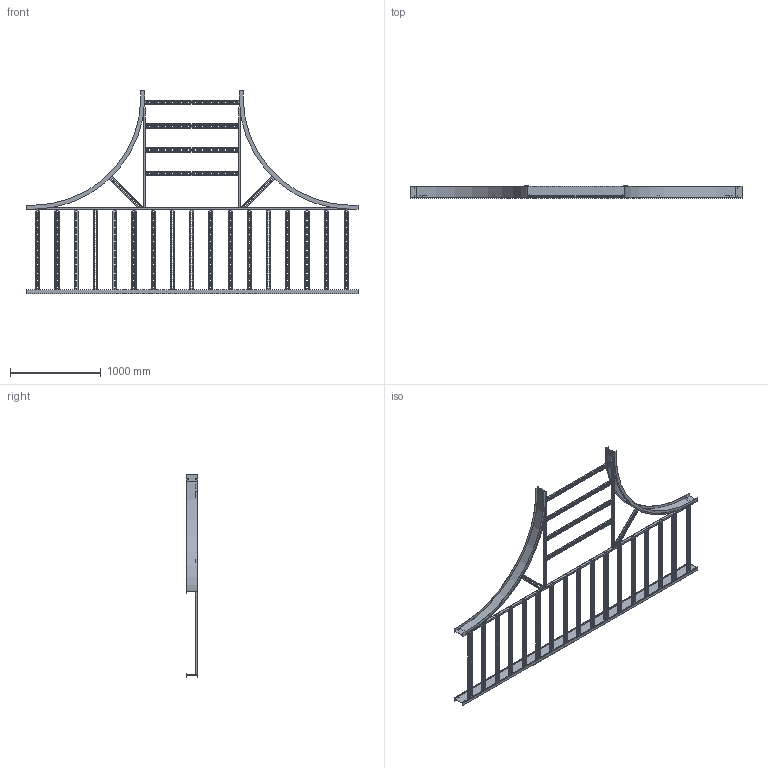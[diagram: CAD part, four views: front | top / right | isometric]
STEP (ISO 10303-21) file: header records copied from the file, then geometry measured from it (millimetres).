
FILE_DESCRIPTION((''),'2;1');
FILE_NAME('AHF53642LET48_ASM','2010-01-28T',('erouzier'),(''),'PRO/ENGINEER BY PARAMETRIC TECHNOLOGY CORPORATION, 2008510','PRO/ENGINEER BY PARAMETRIC TECHNOLOGY CORPORATION, 2008510','');
FILE_SCHEMA(('CONFIG_CONTROL_DESIGN'));
Length unit declared in the file: inch
Products named in the file (21): CDS001811-5-90-48-I; CDS013846-5-144; CDS000495_GEN_AF9; CDS002159L36-P_AF8; CDS002159L36-P_AF9; CDS002159L36-P_AF10; CDS002159L36-P_AF11; CDS002159L36-P; CDS002159L36-P_AF12; CDS002159L36-P_AF13; CDS002159L36-P_AF14; CDS002159L36-P_AF15; CDS000495_GEN_AF10; CDS000495_GEN_AF11; CDS002159L24-P_AF6; CDS002159L24-P_AF7; CDS002159L42-P_AF4; CDS002159L42-P_AF5; CDS002159L42-P_AF6; CDS002159L42-P_AF7; AHF53642LET48_ASM
Assembly tree (29 placements, depth 2):
  AHF53642LET48_ASM
    CDS001811-5-90-48-I  x2
    CDS013846-5-144
    CDS000495_GEN_AF9
    CDS002159L36-P_AF8
    CDS002159L36-P_AF9
    CDS002159L36-P_AF10
    CDS002159L36-P_AF11
    CDS002159L36-P  x9
    CDS002159L36-P_AF12
    CDS002159L36-P_AF13
    CDS002159L36-P_AF14
    CDS002159L36-P_AF15
    CDS000495_GEN_AF10
    CDS000495_GEN_AF11
    CDS002159L24-P_AF6
    CDS002159L24-P_AF7
    CDS002159L42-P_AF4
    CDS002159L42-P_AF5
    CDS002159L42-P_AF6
    CDS002159L42-P_AF7
Bounding box: 3661.66 x 129.54 x 2242.44 mm (x, y, z)
Volume: 7067703.4 mm3; surface area: 8714950.2 mm2
Topology: 29 solids, 29 shells, 7026 faces, 20904 edges, 13936 vertices
Faces by surface type: plane 3667, cylinder 3359
Entity records: 156875 total; most frequent: CARTESIAN_POINT 27414, ORIENTED_EDGE 27168, DIRECTION 27130, EDGE_CURVE 13584, VECTOR 9230, LINE 9230, VERTEX_POINT 9056, AXIS2_PLACEMENT_3D 8950
